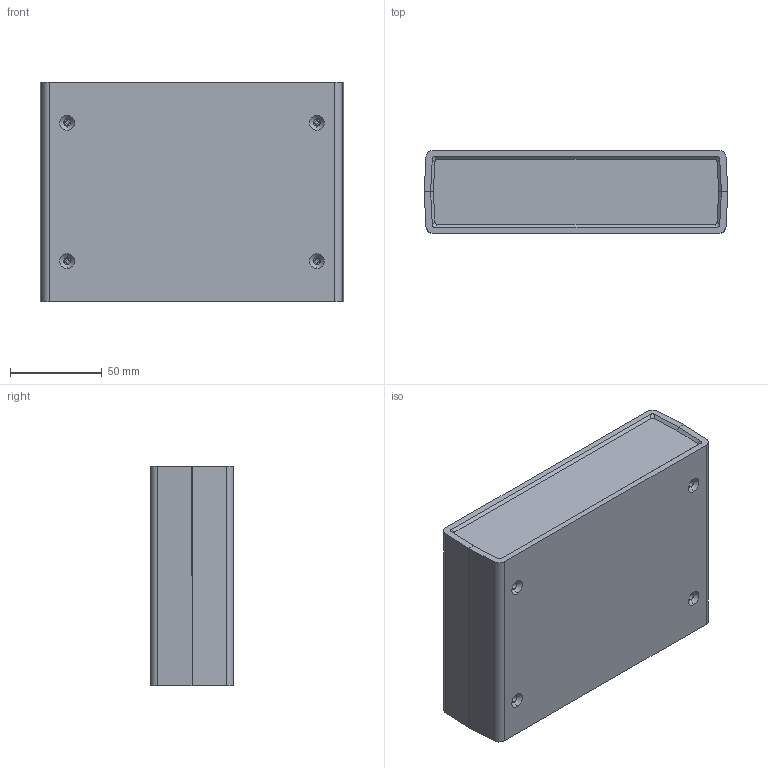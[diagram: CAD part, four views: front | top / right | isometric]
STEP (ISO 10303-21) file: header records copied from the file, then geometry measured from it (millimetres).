
FILE_DESCRIPTION (( 'STEP AP203' ), '1' );
FILE_NAME ('PT210.STEP', '2021-02-15T09:25:16', ( '' ), ( '' ), 'SwSTEP 2.0', 'SolidWorks 2020', '' );
FILE_SCHEMA (( 'CONFIG_CONTROL_DESIGN' ));
Length unit declared in the file: millimetre
Products named in the file (4): PT210
Assembly tree (4 placements, depth 2):
  PT210
    PT210
    PT210
    PT210  x2
Bounding box: 165.5 x 45.2 x 119.6 mm (x, y, z)
Volume: 146254.6 mm3; surface area: 139838.1 mm2
Topology: 4 solids, 4 shells, 602 faces, 1476 edges, 910 vertices
Faces by surface type: plane 250, cylinder 164, cone 104, torus 68, sphere 16
Entity records: 17504 total; most frequent: CARTESIAN_POINT 3193, DIRECTION 3012, ORIENTED_EDGE 2848, EDGE_CURVE 1424, AXIS2_PLACEMENT_3D 1089, VERTEX_POINT 886, LINE 834, VECTOR 834
